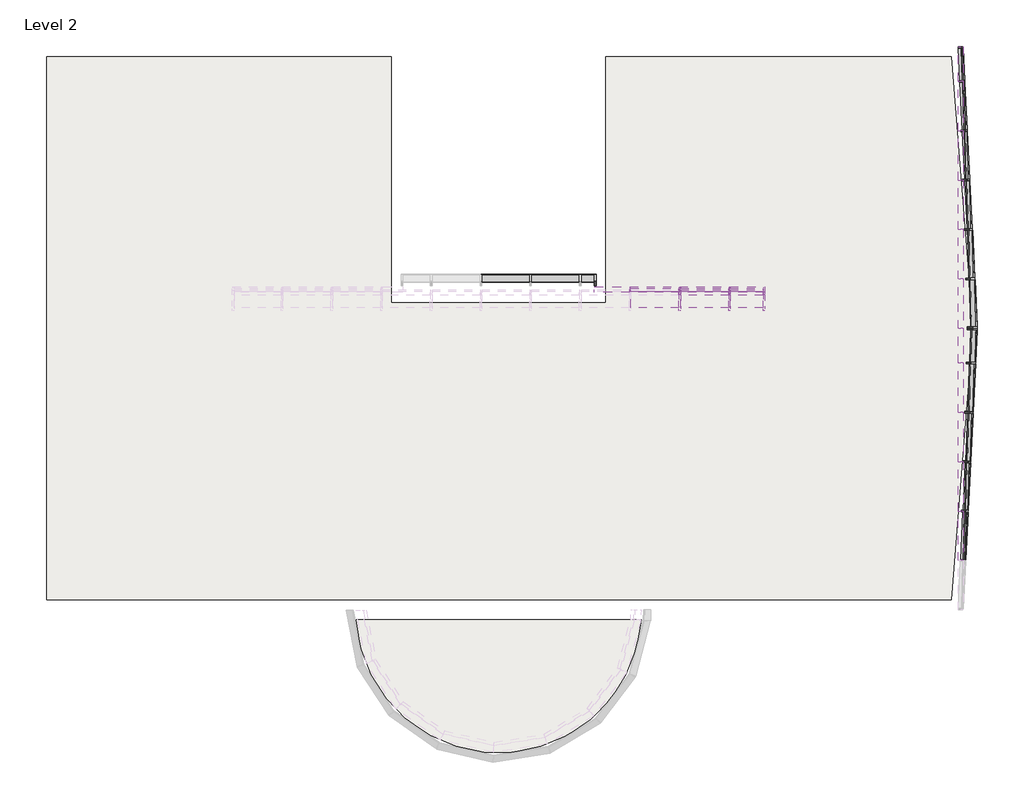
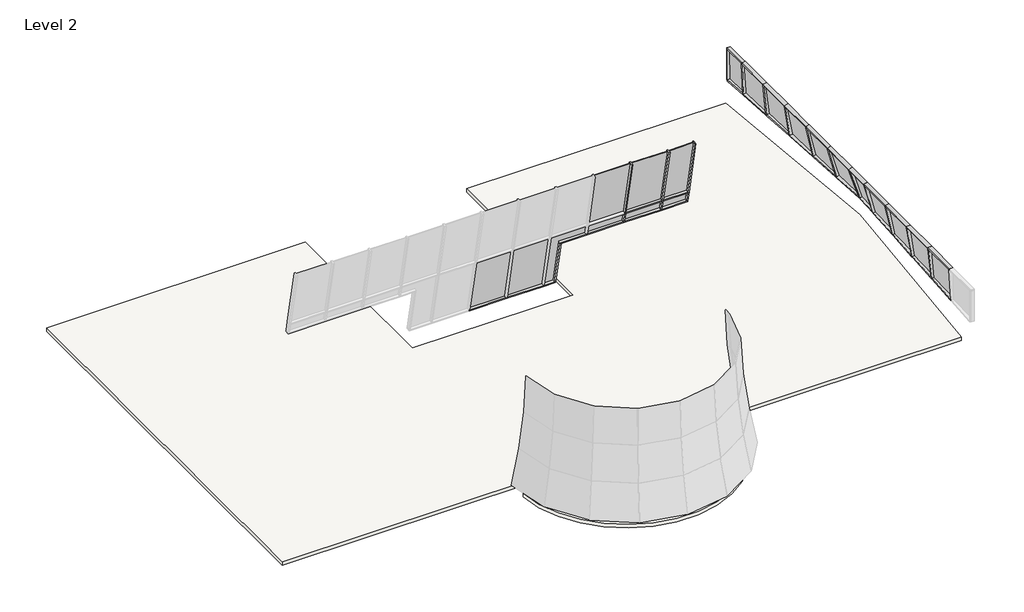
# One storey, part 2 of 2: 50 members, 20 plates, 2 slabs.
"""IFC4 building model written with IfcOpenShell, lengths in millimetres."""

from ifc_helpers import new_model, si_unit, point, frame, frame_2d, origin, place, context, project, spatial, polyline, circle_curve, trimmed, segment, composite_curve, outline, extrude, transform, mapped, element, save
from components import rectangular_mullion_50_x_150mm_662c37b1, rectangular_mullion_50_x_150mm_bcd36f77, rectangular_mullion_50_x_150mm_721bbeef, rectangular_mullion_50_x_150mm_a29c3796, rectangular_mullion_50_x_150mm_cac8fc61, rectangular_mullion_50_x_150mm_461a195c, rectangular_mullion_50_x_150mm_3073d0f7, rectangular_mullion_50_x_150mm_f0154c62, rectangular_mullion_50_x_150mm_b8d1d5e0, rectangular_mullion_50_x_150mm_cb3b9d87, rectangular_mullion_50_x_150mm_6225e4e3, rectangular_mullion_50_x_150mm_02dbcc17, rectangular_mullion_50_x_150mm_3ed892e3, rectangular_mullion_50_x_150mm_81f490af, rectangular_mullion_50_x_150mm_61f7243f, rectangular_mullion_50_x_150mm_d065951c, rectangular_mullion_50_x_150mm_9a428378, rectangular_mullion_50_x_150mm_614122c7, rectangular_mullion_50_x_150mm_d0b908b0, rectangular_mullion_50_x_150mm_f642386c, rectangular_mullion_50_x_150mm_d79c5d21, rectangular_mullion_50_x_150mm_49497ffb, rectangular_mullion_50_x_150mm_0efa07df, rectangular_mullion_50_x_150mm_f1dd1309, rectangular_mullion_50_x_150mm_7e0c11a2, rectangular_mullion_50_x_150mm_39d405a6, rectangular_mullion_50_x_150mm_c55aa34d, system_panel_glazed_b87072f2, system_panel_glazed_8ab755ad, system_panel_glazed_db9244dd, system_panel_glazed_b5ca403f, system_panel_glazed_b38f2dba, system_panel_glazed_1b308fc3, system_panel_glazed_3333aa39, system_panel_glazed_5d99a78e, system_panel_glazed_b829cb4e, system_panel_glazed_f40b8df3, system_panel_glazed_291f116f, system_panel_glazed_c43e899d, system_panel_glazed_8da5e829, system_panel_glazed_ee9bd4c1, system_panel_glazed_948b136b, system_panel_glazed_b97a409a, system_panel_glazed_45e76095

model = new_model("IFC4")

# Units and contexts
model_context = context("Model", 3, world=origin())
ifc_project = project(units=[si_unit("LENGTHUNIT", "METRE", prefix="MILLI")], contexts=[model_context])

# Site, building, storey
site = spatial("IfcSite", under=ifc_project)
building = spatial("IfcBuilding", under=site)
storey = spatial("IfcBuildingStorey", under=building, Name="Level 2", Elevation=4000.0)

# Members
placement = place(None, origin())
rectangular_mullion_50_x_150mm_shape = rectangular_mullion_50_x_150mm_662c37b1(model_context)
element("IfcMember", 1, ObjectType="Rectangular Mullion : 50 x 150mm", at=placement, inside=storey, context=model_context, shape_type="MappedRepresentation", body=[
    mapped(rectangular_mullion_50_x_150mm_shape, transform((7953.3508723, 7484.2738691, 8909.9239018), x_axis=(1.0, 0.0, 0.0), y_axis=(0.0, 0.9794896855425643, 0.20149430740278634), z_axis=(0.0, -0.20149430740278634, 0.9794896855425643))),
])
rectangular_mullion_50_x_150mm_2_shape = rectangular_mullion_50_x_150mm_bcd36f77(model_context)
element("IfcMember", 2, ObjectType="Rectangular Mullion : 50 x 150mm", at=placement, inside=storey, context=model_context, shape_type="MappedRepresentation", body=[
    mapped(rectangular_mullion_50_x_150mm_2_shape, transform((7953.3508723, 8063.1361645, 6096.0), x_axis=(0.0, 0.2014943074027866, -0.9794896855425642), y_axis=(0.0, 0.9794896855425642, 0.2014943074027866), z_axis=(1.0, 0.0, 0.0))),
])
rectangular_mullion_50_x_150mm_3_shape = rectangular_mullion_50_x_150mm_721bbeef(model_context)
element("IfcMember", 3, ObjectType="Rectangular Mullion : 50 x 150mm", at=placement, inside=storey, context=model_context, shape_type="MappedRepresentation", body=[
    mapped(rectangular_mullion_50_x_150mm_3_shape, transform((2862.2459218, 8451.4465447, 4208.3734112), x_axis=(0.0, 0.2014943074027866, -0.9794896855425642), y_axis=(0.0, 0.9794896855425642, 0.2014943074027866), z_axis=(1.0, 0.0, 0.0))),
])
rectangular_mullion_50_x_150mm_4_shape = rectangular_mullion_50_x_150mm_a29c3796(model_context)
element("IfcMember", 4, ObjectType="Rectangular Mullion : 50 x 150mm", at=placement, inside=storey, context=model_context, shape_type="MappedRepresentation", body=[
    mapped(rectangular_mullion_50_x_150mm_4_shape, transform((2862.2459218, 8063.1361645, 6096.0), x_axis=(1.0, 0.0, 0.0), y_axis=(0.0, 0.9794896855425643, 0.20149430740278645), z_axis=(0.0, -0.20149430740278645, 0.9794896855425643))),
])
rectangular_mullion_50_x_150mm_5_shape = rectangular_mullion_50_x_150mm_cac8fc61(model_context)
element("IfcMember", 5, ObjectType="Rectangular Mullion : 50 x 150mm", at=placement, inside=storey, context=model_context, shape_type="MappedRepresentation", body=[
    mapped(rectangular_mullion_50_x_150mm_5_shape, transform((3886.467704, 8063.1361645, 6096.0), x_axis=(0.0, 0.2014943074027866, -0.9794896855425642), y_axis=(0.0, 0.9794896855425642, 0.2014943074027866), z_axis=(1.0, 0.0, 0.0))),
])
rectangular_mullion_50_x_150mm_6_shape = rectangular_mullion_50_x_150mm_461a195c(model_context)
element("IfcMember", 6, ObjectType="Rectangular Mullion : 50 x 150mm", at=placement, inside=storey, context=model_context, shape_type="MappedRepresentation", body=[
    mapped(rectangular_mullion_50_x_150mm_6_shape, transform((5386.467704, 8063.1361645, 6096.0), x_axis=(0.0, 0.2014943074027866, -0.9794896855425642), y_axis=(0.0, 0.9794896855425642, 0.2014943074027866), z_axis=(1.0, 0.0, 0.0))),
])
element("IfcMember", 7, ObjectType="Rectangular Mullion : 50 x 150mm", at=placement, inside=storey, context=model_context, shape_type="MappedRepresentation", body=[
    mapped(rectangular_mullion_50_x_150mm_6_shape, transform((6886.467704, 8063.1361645, 6096.0), x_axis=(0.0, 0.2014943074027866, -0.9794896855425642), y_axis=(0.0, 0.9794896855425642, 0.2014943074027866), z_axis=(1.0, 0.0, 0.0))),
])
element("IfcMember", 8, ObjectType="Rectangular Mullion : 50 x 150mm", at=placement, inside=storey, context=model_context, shape_type="MappedRepresentation", body=[
    mapped(rectangular_mullion_50_x_150mm_6_shape, transform((886.467704, 8451.4465447, 4208.3734112), x_axis=(0.0, 0.2014943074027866, -0.9794896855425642), y_axis=(0.0, 0.9794896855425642, 0.2014943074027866), z_axis=(1.0, 0.0, 0.0))),
])
element("IfcMember", 9, ObjectType="Rectangular Mullion : 50 x 150mm", at=placement, inside=storey, context=model_context, shape_type="MappedRepresentation", body=[
    mapped(rectangular_mullion_50_x_150mm_6_shape, transform((2386.467704, 8451.4465447, 4208.3734112), x_axis=(0.0, 0.2014943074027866, -0.9794896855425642), y_axis=(0.0, 0.9794896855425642, 0.2014943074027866), z_axis=(1.0, 0.0, 0.0))),
])
rectangular_mullion_50_x_150mm_7_shape = rectangular_mullion_50_x_150mm_3073d0f7(model_context)
element("IfcMember", 10, ObjectType="Rectangular Mullion : 50 x 150mm", at=placement, inside=storey, context=model_context, shape_type="MappedRepresentation", body=[
    mapped(rectangular_mullion_50_x_150mm_7_shape, transform((7953.3508723, 7967.8602069, 6559.1486565), x_axis=(1.0, 0.0, 0.0), y_axis=(0.0, 0.979489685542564, 0.2014943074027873), z_axis=(0.0, -0.20149430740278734, 0.9794896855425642))),
])
rectangular_mullion_50_x_150mm_8_shape = rectangular_mullion_50_x_150mm_f0154c62(model_context)
element("IfcMember", 11, ObjectType="Rectangular Mullion : 50 x 150mm", at=placement, inside=storey, context=model_context, shape_type="MappedRepresentation", body=[
    mapped(rectangular_mullion_50_x_150mm_8_shape, transform((5411.467704, 7967.8602069, 6559.1486565), x_axis=(0.0, -0.2014943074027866, 0.9794896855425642), y_axis=(0.0, 0.9794896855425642, 0.2014943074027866), z_axis=(-1.0, 0.0, 0.0))),
])
rectangular_mullion_50_x_150mm_9_shape = rectangular_mullion_50_x_150mm_b8d1d5e0(model_context)
element("IfcMember", 12, ObjectType="Rectangular Mullion : 50 x 150mm", at=placement, inside=storey, context=model_context, shape_type="MappedRepresentation", body=[
    mapped(rectangular_mullion_50_x_150mm_9_shape, transform((6911.467704, 7967.8602069, 6559.1486565), x_axis=(0.0, -0.2014943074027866, 0.9794896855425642), y_axis=(0.0, 0.9794896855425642, 0.2014943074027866), z_axis=(-1.0, 0.0, 0.0))),
])
rectangular_mullion_50_x_150mm_10_shape = rectangular_mullion_50_x_150mm_cb3b9d87(model_context)
element("IfcMember", 13, ObjectType="Rectangular Mullion : 50 x 150mm", at=placement, inside=storey, context=model_context, shape_type="MappedRepresentation", body=[
    mapped(rectangular_mullion_50_x_150mm_10_shape, transform((5386.467704, 7967.8602069, 6559.1486565), x_axis=(1.0, 0.0, 0.0), y_axis=(0.0, 0.9794896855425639, 0.20149430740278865), z_axis=(0.0, -0.20149430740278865, 0.9794896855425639))),
])
element("IfcMember", 14, ObjectType="Rectangular Mullion : 50 x 150mm", at=placement, inside=storey, context=model_context, shape_type="MappedRepresentation", body=[
    mapped(rectangular_mullion_50_x_150mm_10_shape, transform((6886.467704, 7967.8602069, 6559.1486565), x_axis=(1.0, 0.0, 0.0), y_axis=(0.0, 0.9794896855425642, 0.20149430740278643), z_axis=(0.0, -0.20149430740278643, 0.9794896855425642))),
])
rectangular_mullion_50_x_150mm_11_shape = rectangular_mullion_50_x_150mm_6225e4e3(model_context)
element("IfcMember", 15, ObjectType="Rectangular Mullion : 50 x 150mm", at=placement, inside=storey, context=model_context, shape_type="MappedRepresentation", body=[
    mapped(rectangular_mullion_50_x_150mm_11_shape, transform((5386.467704, 7484.2738691, 8909.9239018), x_axis=(1.0, 0.0, 0.0), y_axis=(0.0, 0.9794896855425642, 0.20149430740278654), z_axis=(0.0, -0.2014943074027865, 0.9794896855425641))),
])
element("IfcMember", 16, ObjectType="Rectangular Mullion : 50 x 150mm", at=placement, inside=storey, context=model_context, shape_type="MappedRepresentation", body=[
    mapped(rectangular_mullion_50_x_150mm_11_shape, transform((6886.467704, 7484.2738691, 8909.9239018), x_axis=(1.0, 0.0, 0.0), y_axis=(0.0, 0.9794896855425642, 0.20149430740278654), z_axis=(0.0, -0.2014943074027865, 0.9794896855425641))),
])
rectangular_mullion_50_x_150mm_12_shape = rectangular_mullion_50_x_150mm_02dbcc17(model_context)
element("IfcMember", 17, ObjectType="Rectangular Mullion : 50 x 150mm", at=placement, inside=storey, context=model_context, shape_type="MappedRepresentation", body=[
    mapped(rectangular_mullion_50_x_150mm_12_shape, transform((13862.2459218, 15389.8945169, 6096.0), x_axis=(-0.019801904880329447, 0.0, 0.9998039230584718), y_axis=(0.9998039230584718, 0.0, 0.019801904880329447), z_axis=(0.0, 1.0, 0.0))),
])
element("IfcMember", 18, ObjectType="Rectangular Mullion : 50 x 150mm", at=placement, inside=storey, context=model_context, shape_type="MappedRepresentation", body=[
    mapped(rectangular_mullion_50_x_150mm_12_shape, transform((13862.2459218, 6889.8945169, 6096.0), x_axis=(-0.2883247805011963, 0.0, 0.9575326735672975), y_axis=(0.9575326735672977, 0.0, 0.28832478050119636), z_axis=(0.0, 1.0, 0.0))),
])
rectangular_mullion_50_x_150mm_13_shape = rectangular_mullion_50_x_150mm_3ed892e3(model_context)
element("IfcMember", 19, ObjectType="Rectangular Mullion : 50 x 150mm", at=placement, inside=storey, context=model_context, shape_type="MappedRepresentation", body=[
    mapped(rectangular_mullion_50_x_150mm_13_shape, transform((13862.2459218, 1370.2254396, 6096.0), x_axis=(-0.0840930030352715, 0.0, 0.9964579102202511), y_axis=(0.9964579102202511, 0.0, 0.0840930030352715), z_axis=(0.0, 1.0, 0.0))),
])
element("IfcMember", 20, ObjectType="Rectangular Mullion : 50 x 150mm", at=placement, inside=storey, context=model_context, shape_type="MappedRepresentation", body=[
    mapped(rectangular_mullion_50_x_150mm_13_shape, transform((13862.2459218, 2860.3909009, 6096.0), x_axis=(-0.13928222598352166, 0.0, 0.9902527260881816), y_axis=(0.9902527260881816, 0.0, 0.13928222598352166), z_axis=(0.0, 1.0, 0.0))),
])
element("IfcMember", 21, ObjectType="Rectangular Mullion : 50 x 150mm", at=placement, inside=storey, context=model_context, shape_type="MappedRepresentation", body=[
    mapped(rectangular_mullion_50_x_150mm_13_shape, transform((13862.2459218, 4350.5563622, 6096.0), x_axis=(-0.19320433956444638, 0.0, 0.9811585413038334), y_axis=(0.9811585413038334, 0.0, 0.19320433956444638), z_axis=(0.0, 1.0, 0.0))),
])
element("IfcMember", 22, ObjectType="Rectangular Mullion : 50 x 150mm", at=placement, inside=storey, context=model_context, shape_type="MappedRepresentation", body=[
    mapped(rectangular_mullion_50_x_150mm_13_shape, transform((13862.2459218, 5840.7218236, 6096.0), x_axis=(-0.24543209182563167, 0.0, 0.9694137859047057), y_axis=(0.9694137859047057, 0.0, 0.24543209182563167), z_axis=(0.0, 1.0, 0.0))),
])
element("IfcMember", 23, ObjectType="Rectangular Mullion : 50 x 150mm", at=placement, inside=storey, context=model_context, shape_type="MappedRepresentation", body=[
    mapped(rectangular_mullion_50_x_150mm_13_shape, transform((13862.2459218, 9870.2254396, 6096.0), x_axis=(-0.23017516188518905, 0.0, 0.9731492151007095), y_axis=(0.9731492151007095, 0.0, 0.23017516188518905), z_axis=(0.0, 1.0, 0.0))),
])
element("IfcMember", 24, ObjectType="Rectangular Mullion : 50 x 150mm", at=placement, inside=storey, context=model_context, shape_type="MappedRepresentation", body=[
    mapped(rectangular_mullion_50_x_150mm_13_shape, transform((13862.2459218, 11360.3909009, 6096.0), x_axis=(-0.17740540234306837, 0.0, 0.9841378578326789), y_axis=(0.9841378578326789, 0.0, 0.17740540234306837), z_axis=(0.0, 1.0, 0.0))),
])
element("IfcMember", 25, ObjectType="Rectangular Mullion : 50 x 150mm", at=placement, inside=storey, context=model_context, shape_type="MappedRepresentation", body=[
    mapped(rectangular_mullion_50_x_150mm_13_shape, transform((13862.2459218, 12850.5563622, 6096.0), x_axis=(-0.12306096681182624, 0.0, 0.9923991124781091), y_axis=(0.9923991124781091, 0.0, 0.12306096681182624), z_axis=(0.0, 1.0, 0.0))),
])
element("IfcMember", 26, ObjectType="Rectangular Mullion : 50 x 150mm", at=placement, inside=storey, context=model_context, shape_type="MappedRepresentation", body=[
    mapped(rectangular_mullion_50_x_150mm_13_shape, transform((13862.2459218, 14340.7218236, 6096.0), x_axis=(-0.067587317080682, 0.0, 0.9977133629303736), y_axis=(0.9977133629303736, 0.0, 0.067587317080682), z_axis=(0.0, 1.0, 0.0))),
])
rectangular_mullion_50_x_150mm_14_shape = rectangular_mullion_50_x_150mm_81f490af(model_context)
element("IfcMember", 27, ObjectType="Rectangular Mullion : 50 x 150mm", at=placement, inside=storey, context=model_context, shape_type="MappedRepresentation", body=[
    mapped(rectangular_mullion_50_x_150mm_14_shape, transform((13862.2459218, 15389.8945169, 4739.375187), x_axis=(-0.02560133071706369, 0.9996722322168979, 0.0), y_axis=(0.9996722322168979, 0.02560133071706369, 0.0), z_axis=(0.0, 0.0, -1.0))),
])
rectangular_mullion_50_x_150mm_15_shape = rectangular_mullion_50_x_150mm_61f7243f(model_context)
element("IfcMember", 28, ObjectType="Rectangular Mullion : 50 x 150mm", at=placement, inside=storey, context=model_context, shape_type="MappedRepresentation", body=[
    mapped(rectangular_mullion_50_x_150mm_15_shape, transform((14222.564598, 8355.0927067, 4739.375187), x_axis=(-0.25604986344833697, -0.013114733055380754, 0.9665746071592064), y_axis=(0.96530922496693, 0.049442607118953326, 0.25638550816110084), z_axis=(-0.05115239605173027, 0.9986908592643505, 0.0))),
])
rectangular_mullion_50_x_150mm_16_shape = rectangular_mullion_50_x_150mm_d065951c(model_context)
element("IfcMember", 29, ObjectType="Rectangular Mullion : 50 x 150mm", at=placement, inside=storey, context=model_context, shape_type="MappedRepresentation", body=[
    mapped(rectangular_mullion_50_x_150mm_16_shape, transform((14146.2391434, 9845.2581681, 4739.375187), x_axis=(-0.2043717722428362, -0.010467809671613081, 0.9788373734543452), y_axis=(0.9775559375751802, 0.05006987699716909, 0.20463967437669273), z_axis=(-0.05115239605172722, 0.9986908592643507, 0.0))),
])
element("IfcMember", 30, ObjectType="Rectangular Mullion : 50 x 150mm", at=placement, inside=storey, context=model_context, shape_type="MappedRepresentation", body=[
    mapped(rectangular_mullion_50_x_150mm_16_shape, transform((14069.9136887, 11335.4236294, 4739.375187), x_axis=(-0.15092281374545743, -0.00773018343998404, 0.9885153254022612), y_axis=(0.9872212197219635, 0.050564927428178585, 0.151120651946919), z_axis=(-0.051152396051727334, 0.9986908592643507, 0.0))),
])
element("IfcMember", 31, ObjectType="Rectangular Mullion : 50 x 150mm", at=placement, inside=storey, context=model_context, shape_type="MappedRepresentation", body=[
    mapped(rectangular_mullion_50_x_150mm_16_shape, transform((13993.5882341, 12825.5890908, 4739.375187), x_axis=(-0.09611395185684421, -0.004922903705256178, 0.9953581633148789), y_axis=(0.9940550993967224, 0.05091495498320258, 0.09623994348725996), z_axis=(-0.051152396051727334, 0.9986908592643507, 0.0))),
])
element("IfcMember", 32, ObjectType="Rectangular Mullion : 50 x 150mm", at=placement, inside=storey, context=model_context, shape_type="MappedRepresentation", body=[
    mapped(rectangular_mullion_50_x_150mm_16_shape, transform((13917.2627795, 14315.7545521, 4739.375187), x_axis=(-0.04041497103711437, -0.002070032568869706, 0.9991808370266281), y_axis=(0.9978727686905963, 0.05111049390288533, 0.0404679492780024), z_axis=(-0.05115239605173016, 0.9986908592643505, 0.0))),
])
element("IfcMember", 33, ObjectType="Rectangular Mullion : 50 x 150mm", at=placement, inside=storey, context=model_context, shape_type="MappedRepresentation", body=[
    mapped(rectangular_mullion_50_x_150mm_16_shape, transform((14013.6180211, 1345.2581681, 4739.375187), x_axis=(-0.11060338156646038, 0.0056650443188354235, 0.9938484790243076), y_axis=(0.9925473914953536, -0.05083773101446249, 0.11074836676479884), z_axis=(0.05115239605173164, 0.9986908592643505, 0.0))),
])
element("IfcMember", 34, ObjectType="Rectangular Mullion : 50 x 150mm", at=placement, inside=storey, context=model_context, shape_type="MappedRepresentation", body=[
    mapped(rectangular_mullion_50_x_150mm_16_shape, transform((14089.9434757, 2835.4236294, 4739.375187), x_axis=(-0.16509872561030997, 0.00845626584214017, 0.9862407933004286), y_axis=(0.9849496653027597, -0.050448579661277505, 0.16531514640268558), z_axis=(0.05115239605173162, 0.9986908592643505, 0.0))),
])
element("IfcMember", 35, ObjectType="Rectangular Mullion : 50 x 150mm", at=placement, inside=storey, context=model_context, shape_type="MappedRepresentation", body=[
    mapped(rectangular_mullion_50_x_150mm_16_shape, transform((14166.2689304, 4325.5890908, 4739.375187), x_axis=(-0.21811999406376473, 0.011171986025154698, 0.975858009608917), y_axis=(0.9745804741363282, -0.04991747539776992, 0.21840591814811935), z_axis=(0.0511523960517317, 0.9986908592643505, 0.0))),
])
element("IfcMember", 36, ObjectType="Rectangular Mullion : 50 x 150mm", at=placement, inside=storey, context=model_context, shape_type="MappedRepresentation", body=[
    mapped(rectangular_mullion_50_x_150mm_16_shape, transform((14242.594385, 5815.7545521, 4739.375187), x_axis=(-0.2692740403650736, 0.013792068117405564, 0.9629648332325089), y_axis=(0.9617041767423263, -0.04925795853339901, 0.2696270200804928), z_axis=(0.05115239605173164, 0.9986908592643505, 0.0))),
])
rectangular_mullion_50_x_150mm_17_shape = rectangular_mullion_50_x_150mm_9a428378(model_context)
element("IfcMember", 37, ObjectType="Rectangular Mullion : 50 x 150mm", at=placement, inside=storey, context=model_context, shape_type="MappedRepresentation", body=[
    mapped(rectangular_mullion_50_x_150mm_17_shape, transform((13864.8035416, 15339.9599739, 4739.375187), x_axis=(-0.0018803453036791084, -9.631025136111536e-05, 0.9999982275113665), y_axis=(0.9986890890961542, 0.05115230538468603, 0.0018828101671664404), z_axis=(-0.05115239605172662, 0.9986908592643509, 0.0))),
])
element("IfcMember", 38, ObjectType="Rectangular Mullion : 50 x 150mm", at=placement, inside=storey, context=model_context, shape_type="MappedRepresentation", body=[
    mapped(rectangular_mullion_50_x_150mm_17_shape, transform((14295.0536229, 6839.9599739, 4739.375187), x_axis=(-0.30318105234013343, 0.015528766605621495, 0.9528064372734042), y_axis=(0.9515590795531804, -0.04873833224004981, 0.3035784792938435), z_axis=(0.05115239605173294, 0.9986908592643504, 0.0))),
])
rectangular_mullion_50_x_150mm_18_shape = rectangular_mullion_50_x_150mm_614122c7(model_context)
element("IfcMember", 39, ObjectType="Rectangular Mullion : 50 x 150mm", at=placement, inside=storey, context=model_context, shape_type="MappedRepresentation", body=[
    mapped(rectangular_mullion_50_x_150mm_18_shape, transform((14221.2857881, 8380.0599782, 4739.375187), x_axis=(-0.04780814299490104, 0.9987763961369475, -0.01265274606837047), y_axis=(0.9655341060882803, 0.049454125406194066, 0.25553508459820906), z_axis=(0.2558481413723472, 0.0, -0.9667169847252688))),
])
rectangular_mullion_50_x_150mm_19_shape = rectangular_mullion_50_x_150mm_d0b908b0(model_context)
element("IfcMember", 40, ObjectType="Rectangular Mullion : 50 x 150mm", at=placement, inside=storey, context=model_context, shape_type="MappedRepresentation", body=[
    mapped(rectangular_mullion_50_x_150mm_19_shape, transform((14144.9603335, 9870.2254396, 4739.375187), x_axis=(-0.04902604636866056, 0.9987452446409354, -0.010216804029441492), y_axis=(0.9777399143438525, 0.0500793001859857, 0.20375653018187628), z_axis=(0.20401251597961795, 0.0, -0.9789682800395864))),
])
rectangular_mullion_50_x_150mm_20_shape = rectangular_mullion_50_x_150mm_f642386c(model_context)
element("IfcMember", 41, ObjectType="Rectangular Mullion : 50 x 150mm", at=placement, inside=storey, context=model_context, shape_type="MappedRepresentation", body=[
    mapped(rectangular_mullion_50_x_150mm_20_shape, transform((14068.6348788, 11360.3909009, 4739.375187), x_axis=(-0.049996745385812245, 0.9987204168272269, -0.007606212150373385), y_axis=(0.9873596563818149, 0.05057201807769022, 0.15021111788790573), z_axis=(0.15040357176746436, 0.0, -0.9886246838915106))),
])
rectangular_mullion_50_x_150mm_21_shape = rectangular_mullion_50_x_150mm_d79c5d21(model_context)
element("IfcMember", 42, ObjectType="Rectangular Mullion : 50 x 150mm", at=placement, inside=storey, context=model_context, shape_type="MappedRepresentation", body=[
    mapped(rectangular_mullion_50_x_150mm_21_shape, transform((13992.3094242, 12850.5563622, 4739.375187), x_axis=(-0.0506871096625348, 0.9987027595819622, -0.004859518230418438), y_axis=(0.9941443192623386, 0.050919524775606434, 0.09531146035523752), z_axis=(0.09543526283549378, 0.0, -0.9954356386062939))),
])
rectangular_mullion_50_x_150mm_22_shape = rectangular_mullion_50_x_150mm_49497ffb(model_context)
element("IfcMember", 43, ObjectType="Rectangular Mullion : 50 x 150mm", at=placement, inside=storey, context=model_context, shape_type="MappedRepresentation", body=[
    mapped(rectangular_mullion_50_x_150mm_22_shape, transform((13915.9839696, 14340.7218236, 4739.375187), x_axis=(-0.051072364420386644, 0.9986929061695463, -0.002023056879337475), y_axis=(0.997910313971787, 0.051112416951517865, 0.039528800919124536), z_axis=(0.03958053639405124, 0.0, -0.9992163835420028))),
])
rectangular_mullion_50_x_150mm_23_shape = rectangular_mullion_50_x_150mm_0efa07df(model_context)
element("IfcMember", 44, ObjectType="Rectangular Mullion : 50 x 150mm", at=placement, inside=storey, context=model_context, shape_type="MappedRepresentation", body=[
    mapped(rectangular_mullion_50_x_150mm_23_shape, transform((14014.896831, 1370.2254396, 4739.375187), x_axis=(0.050513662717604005, 0.9987071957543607, 0.005683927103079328), y_axis=(0.9924441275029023, -0.05083244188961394, 0.1116723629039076), z_axis=(0.11181692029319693, 0.0, -0.9937288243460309))),
])
rectangular_mullion_50_x_150mm_24_shape = rectangular_mullion_50_x_150mm_f1dd1309(model_context)
element("IfcMember", 45, ObjectType="Rectangular Mullion : 50 x 150mm", at=placement, inside=storey, context=model_context, shape_type="MappedRepresentation", body=[
    mapped(rectangular_mullion_50_x_150mm_24_shape, transform((14091.2222856, 2860.3909009, 4739.375187), x_axis=(0.04973733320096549, 0.9987270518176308, 0.008394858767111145), y_axis=(0.9847980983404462, -0.05044081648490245, 0.16621801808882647), z_axis=(0.16642987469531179, 0.0, -0.9860532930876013))),
])
rectangular_mullion_50_x_150mm_25_shape = rectangular_mullion_50_x_150mm_7e0c11a2(model_context)
element("IfcMember", 46, ObjectType="Rectangular Mullion : 50 x 150mm", at=placement, inside=storey, context=model_context, shape_type="MappedRepresentation", body=[
    mapped(rectangular_mullion_50_x_150mm_25_shape, transform((14167.5477403, 4350.5563622, 4739.375187), x_axis=(0.04868971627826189, 0.9987538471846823, 0.010957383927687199), y_axis=(0.9743845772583, -0.04990744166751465, 0.21928051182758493), z_axis=(0.21955410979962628, 0.0, -0.9756003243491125))),
])
rectangular_mullion_50_x_150mm_26_shape = rectangular_mullion_50_x_150mm_39d405a6(model_context)
element("IfcMember", 47, ObjectType="Rectangular Mullion : 50 x 150mm", at=placement, inside=storey, context=model_context, shape_type="MappedRepresentation", body=[
    mapped(rectangular_mullion_50_x_150mm_26_shape, transform((14243.8731949, 5840.7218236, 4739.375187), x_axis=(0.04740591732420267, 0.9987866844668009, 0.013335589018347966), y_axis=(0.9614688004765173, -0.04924590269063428, 0.2704673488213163), z_axis=(0.27079590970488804, 0.0, -0.9626367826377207))),
])
rectangular_mullion_50_x_150mm_27_shape = rectangular_mullion_50_x_150mm_c55aa34d(model_context)
element("IfcMember", 48, ObjectType="Rectangular Mullion : 50 x 150mm", at=placement, inside=storey, context=model_context, shape_type="MappedRepresentation", body=[
    mapped(rectangular_mullion_50_x_150mm_27_shape, transform((13877.5243478, 6889.8945169, 6048.3914955), x_axis=(0.023403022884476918, -0.9996979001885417, 0.007510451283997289), y_axis=(0.951882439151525, 0.024578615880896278, 0.3054762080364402), z_axis=(-0.30556852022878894, 0.0, 0.9521700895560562))),
])
element("IfcMember", 49, ObjectType="Rectangular Mullion : 50 x 150mm", at=placement, inside=storey, context=model_context, shape_type="MappedRepresentation", body=[
    mapped(rectangular_mullion_50_x_150mm_27_shape, transform((14297.6112427, 6889.8945169, 4739.375187), x_axis=(0.02334604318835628, 0.9996993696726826, 0.007492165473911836), y_axis=(0.9518838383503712, -0.024518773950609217, 0.30547665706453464), z_axis=(0.30556852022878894, 0.0, -0.9521700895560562))),
])
element("IfcMember", 50, ObjectType="Rectangular Mullion : 50 x 150mm", at=placement, inside=storey, context=model_context, shape_type="MappedRepresentation", body=[
    mapped(rectangular_mullion_50_x_150mm_13_shape, transform((13862.2459218, 8380.0599782, 6096.0), x_axis=(-0.28099106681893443, 0.0, 0.9597103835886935), y_axis=(0.9597103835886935, 0.0, 0.28099106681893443), z_axis=(0.0, 1.0, 0.0))),
])

# Plates
system_panel_glazed_shape = system_panel_glazed_b87072f2(model_context)
element("IfcPlate", 51, ObjectType="System Panel : Glazed", at=placement, inside=storey, context=model_context, shape_type="MappedRepresentation", body=[
    mapped(system_panel_glazed_shape, transform((4636.467704, 8053.0614491, 6144.9744843), x_axis=(1.0, 0.0, 0.0), y_axis=(0.0, 0.9794896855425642, 0.2014943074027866), z_axis=(0.0, -0.2014943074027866, 0.9794896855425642))),
])
element("IfcPlate", 52, ObjectType="System Panel : Glazed", at=placement, inside=storey, context=model_context, shape_type="MappedRepresentation", body=[
    mapped(system_panel_glazed_shape, transform((6136.467704, 8053.0614491, 6144.9744843), x_axis=(1.0, 0.0, 0.0), y_axis=(0.0, 0.9794896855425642, 0.2014943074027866), z_axis=(0.0, -0.2014943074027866, 0.9794896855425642))),
])
system_panel_glazed_2_shape = system_panel_glazed_8ab755ad(model_context)
element("IfcPlate", 53, ObjectType="System Panel : Glazed", at=placement, inside=storey, context=model_context, shape_type="MappedRepresentation", body=[
    mapped(system_panel_glazed_2_shape, transform((136.467704, 8441.3718293, 4257.3478955), x_axis=(1.0, 0.0, 0.0), y_axis=(0.0, 0.9794896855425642, 0.2014943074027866), z_axis=(0.0, -0.2014943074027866, 0.9794896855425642))),
])
element("IfcPlate", 54, ObjectType="System Panel : Glazed", at=placement, inside=storey, context=model_context, shape_type="MappedRepresentation", body=[
    mapped(system_panel_glazed_2_shape, transform((1636.467704, 8441.3718293, 4257.3478955), x_axis=(1.0, 0.0, 0.0), y_axis=(0.0, 0.9794896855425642, 0.2014943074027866), z_axis=(0.0, -0.2014943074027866, 0.9794896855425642))),
])
system_panel_glazed_3_shape = system_panel_glazed_db9244dd(model_context)
element("IfcPlate", 55, ObjectType="System Panel : Glazed", at=placement, inside=storey, context=model_context, shape_type="MappedRepresentation", body=[
    mapped(system_panel_glazed_3_shape, transform((3136.467704, 8441.3718293, 4257.3478955), x_axis=(1.0, 0.0, 0.0), y_axis=(0.0, 0.9794896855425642, 0.2014943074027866), z_axis=(0.0, -0.2014943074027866, 0.9794896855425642))),
])
system_panel_glazed_4_shape = system_panel_glazed_b5ca403f(model_context)
element("IfcPlate", 56, ObjectType="System Panel : Glazed", at=placement, inside=storey, context=model_context, shape_type="MappedRepresentation", body=[
    mapped(system_panel_glazed_4_shape, transform((7407.4092881, 8053.0614491, 6144.9744843), x_axis=(1.0, 0.0, 0.0), y_axis=(0.0, 0.9794896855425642, 0.2014943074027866), z_axis=(0.0, -0.2014943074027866, 0.9794896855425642))),
])
system_panel_glazed_5_shape = system_panel_glazed_b38f2dba(model_context)
element("IfcPlate", 57, ObjectType="System Panel : Glazed", at=placement, inside=storey, context=model_context, shape_type="MappedRepresentation", body=[
    mapped(system_panel_glazed_5_shape, transform((4636.467704, 7962.8228492, 6583.6358986), x_axis=(1.0, 0.0, 0.0), y_axis=(0.0, 0.9794896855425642, 0.2014943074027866), z_axis=(0.0, -0.2014943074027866, 0.9794896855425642))),
])
element("IfcPlate", 58, ObjectType="System Panel : Glazed", at=placement, inside=storey, context=model_context, shape_type="MappedRepresentation", body=[
    mapped(system_panel_glazed_5_shape, transform((6136.467704, 7962.8228492, 6583.6358986), x_axis=(1.0, 0.0, 0.0), y_axis=(0.0, 0.9794896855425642, 0.2014943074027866), z_axis=(0.0, -0.2014943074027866, 0.9794896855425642))),
])
system_panel_glazed_6_shape = system_panel_glazed_1b308fc3(model_context)
element("IfcPlate", 59, ObjectType="System Panel : Glazed", at=placement, inside=storey, context=model_context, shape_type="MappedRepresentation", body=[
    mapped(system_panel_glazed_6_shape, transform((7407.4092881, 7962.8228492, 6583.6358986), x_axis=(1.0, 0.0, 0.0), y_axis=(0.0, 0.9794896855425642, 0.2014943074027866), z_axis=(0.0, -0.2014943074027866, 0.9794896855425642))),
])
system_panel_glazed_7_shape = system_panel_glazed_3333aa39(model_context)
element("IfcPlate", 60, ObjectType="System Panel : Glazed", at=placement, inside=storey, context=model_context, shape_type="MappedRepresentation", body=[
    mapped(system_panel_glazed_7_shape, transform((13974.572388, 622.840661, 4764.2917991), x_axis=(0.025781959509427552, 0.9996652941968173, -0.002142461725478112), y_axis=(-0.9961336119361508, 0.02551070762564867, -0.0840656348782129), z_axis=(-0.08398284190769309, 0.0043015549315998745, 0.9964579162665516))),
])
system_panel_glazed_8_shape = system_panel_glazed_5d99a78e(model_context)
element("IfcPlate", 61, ObjectType="System Panel : Glazed", at=placement, inside=storey, context=model_context, shape_type="MappedRepresentation", body=[
    mapped(system_panel_glazed_8_shape, transform((14049.4692798, 2111.1660233, 4764.1467461), x_axis=(0.026096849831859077, 0.9996531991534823, -0.003526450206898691), y_axis=(-0.9899344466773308, 0.025351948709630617, -0.13923745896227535), z_axis=(-0.13909976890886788, 0.007124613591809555, 0.9902527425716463))),
])
system_panel_glazed_9_shape = system_panel_glazed_b829cb4e(model_context)
element("IfcPlate", 62, ObjectType="System Panel : Glazed", at=placement, inside=storey, context=model_context, shape_type="MappedRepresentation", body=[
    mapped(system_panel_glazed_9_shape, transform((14124.395765, 3599.4918302, 4763.9343524), x_axis=(0.026554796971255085, 0.9996356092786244, -0.00484679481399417), y_axis=(-0.9808489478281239, 0.02511927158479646, -0.19314337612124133), z_axis=(-0.19295124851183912, 0.00988285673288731, 0.9811585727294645))),
])
system_panel_glazed_10_shape = system_panel_glazed_f40b8df3(model_context)
element("IfcPlate", 63, ObjectType="System Panel : Glazed", at=placement, inside=storey, context=model_context, shape_type="MappedRepresentation", body=[
    mapped(system_panel_glazed_10_shape, transform((14199.3618074, 5087.8169855, 4763.660046), x_axis=(0.02713997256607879, 0.9996131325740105, -0.006083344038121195), y_axis=(-0.969115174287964, 0.02481877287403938, -0.24535649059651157), z_axis=(-0.2451105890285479, 0.012554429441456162, 0.969413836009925))),
])
system_panel_glazed_11_shape = system_panel_glazed_291f116f(model_context)
element("IfcPlate", 64, ObjectType="System Panel : Glazed", at=placement, inside=storey, context=model_context, shape_type="MappedRepresentation", body=[
    mapped(system_panel_glazed_11_shape, transform((14262.9220897, 6343.2710324, 4763.4717323), x_axis=(0.027724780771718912, 0.9995906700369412, -0.007058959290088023), y_axis=(-0.9572449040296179, 0.0245147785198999, -0.2882381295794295), z_axis=(-0.28794709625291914, 0.01474849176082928, 0.9575327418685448))),
])
system_panel_glazed_12_shape = system_panel_glazed_c43e899d(model_context)
element("IfcPlate", 65, ObjectType="System Panel : Glazed", at=placement, inside=storey, context=model_context, shape_type="MappedRepresentation", body=[
    mapped(system_panel_glazed_12_shape, transform((14251.825802, 7656.5923439, 4763.5195244), x_axis=(-0.027618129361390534, 0.9995947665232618, 0.006895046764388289), y_axis=(-0.9594206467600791, -0.024570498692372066, -0.2809062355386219), z_axis=(-0.28062298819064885, -0.0143733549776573, 0.959710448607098))),
])
system_panel_glazed_13_shape = system_panel_glazed_8da5e829(model_context)
element("IfcPlate", 66, ObjectType="System Panel : Glazed", at=placement, inside=storey, context=model_context, shape_type="MappedRepresentation", body=[
    mapped(system_panel_glazed_13_shape, transform((14177.1720494, 9132.4200739, 4763.7472993), x_axis=(-0.026954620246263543, 0.9996202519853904, 0.005727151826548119), y_axis=(-0.9728471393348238, -0.024914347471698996, -0.23010371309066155), z_axis=(-0.22987364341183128, -0.011774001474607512, 0.9731492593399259))),
])
system_panel_glazed_14_shape = system_panel_glazed_ee9bd4c1(model_context)
element("IfcPlate", 67, ObjectType="System Panel : Glazed", at=placement, inside=storey, context=model_context, shape_type="MappedRepresentation", body=[
    mapped(system_panel_glazed_14_shape, transform((14102.218662, 10620.7455333, 4764.0039281), x_axis=(-0.02640523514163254, 0.9996413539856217, 0.0044639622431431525), y_axis=(-0.9838254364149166, -0.025195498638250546, -0.1773490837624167), z_axis=(-0.17717300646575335, -0.009074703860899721, 0.9841378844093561))),
])
system_panel_glazed_15_shape = system_panel_glazed_948b136b(model_context)
element("IfcPlate", 68, ObjectType="System Panel : Glazed", at=placement, inside=storey, context=model_context, shape_type="MappedRepresentation", body=[
    mapped(system_panel_glazed_15_shape, transform((14027.3020369, 12109.0713244, 4764.1968944), x_axis=(-0.025988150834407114, 0.9996573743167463, 0.0031224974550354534), y_axis=(-0.9920787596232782, -0.025406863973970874, -0.12302124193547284), z_axis=(-0.12289975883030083, -0.0062948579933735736, 0.9923991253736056))),
])
system_panel_glazed_16_shape = system_panel_glazed_b97a409a(model_context)
element("IfcPlate", 69, ObjectType="System Panel : Glazed", at=placement, inside=storey, context=model_context, shape_type="MappedRepresentation", body=[
    mapped(system_panel_glazed_16_shape, transform((13952.4117959, 13597.3963417, 4764.321201), x_axis=(-0.025718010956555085, 0.9996677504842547, 0.0017241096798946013), y_axis=(-0.9973878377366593, -0.025542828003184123, -0.06756526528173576), z_axis=(-0.06749877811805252, -0.0034572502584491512, 0.9977133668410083))),
])
system_panel_glazed_17_shape = system_panel_glazed_45e76095(model_context)
element("IfcPlate", 70, ObjectType="System Panel : Glazed", at=placement, inside=storey, context=model_context, shape_type="MappedRepresentation", body=[
    mapped(system_panel_glazed_17_shape, transform((13888.9317316, 14853.136555, 4764.3641347), x_axis=(-0.025611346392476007, 0.9996718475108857, 0.0005061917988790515), y_axis=(-0.9994763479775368, -0.02559631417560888, -0.019795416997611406), z_axis=(-0.01977596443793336, -0.0010129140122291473, 0.9998039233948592))),
])

# Slabs
element("IfcSlab", 71, ObjectType="Generic 150mm", at=placement, inside=storey, context=model_context, shape_type="SweptSolid", body=[
    extrude(outline(composite_curve([segment(trimmed(circle_curve(frame_2d((-80.0907119, -1610.1054788)), 4312.1302752), [point((4221.5912275, -1910.1054831))], [point((-4381.7726513, -1910.1054831))], False, "CARTESIAN"), True, "CONTINUOUS"), segment(polyline([(-4381.7726513, -1910.1054831), (4221.5912275, -1910.1054831)]), True, "CONTINUOUS")], self_intersect=False)), frame((0.0, 0.0, 3850.0), z_axis=(0.0, 0.0, 1.0), x_axis=(1.0, 0.0, 0.0)), (0.0, 0.0, 1.0), 150.0),
])
element("IfcSlab", 72, ObjectType="Generic 150mm", at=placement, inside=storey, context=model_context, shape_type="SweptSolid", body=[
    extrude(outline(polyline([(14233.9521717, 6889.8945169), (13585.0484259, -1310.1054831), (-13722.4273455, -1310.1054831), (-13722.4273455, 15089.8945169), (-3322.4273455, 15089.8945169), (-3322.4273455, 7653.2588334), (3162.2459218, 7653.2588334), (3162.2459218, 15089.8945169), (13585.0484259, 15089.8945169), (14233.9521717, 6889.8945169)])), frame((0.0, 0.0, 3850.0), z_axis=(0.0, 0.0, 1.0), x_axis=(1.0, 0.0, 0.0)), (0.0, 0.0, 1.0), 150.0),
])

save(model, "model.ifc")
